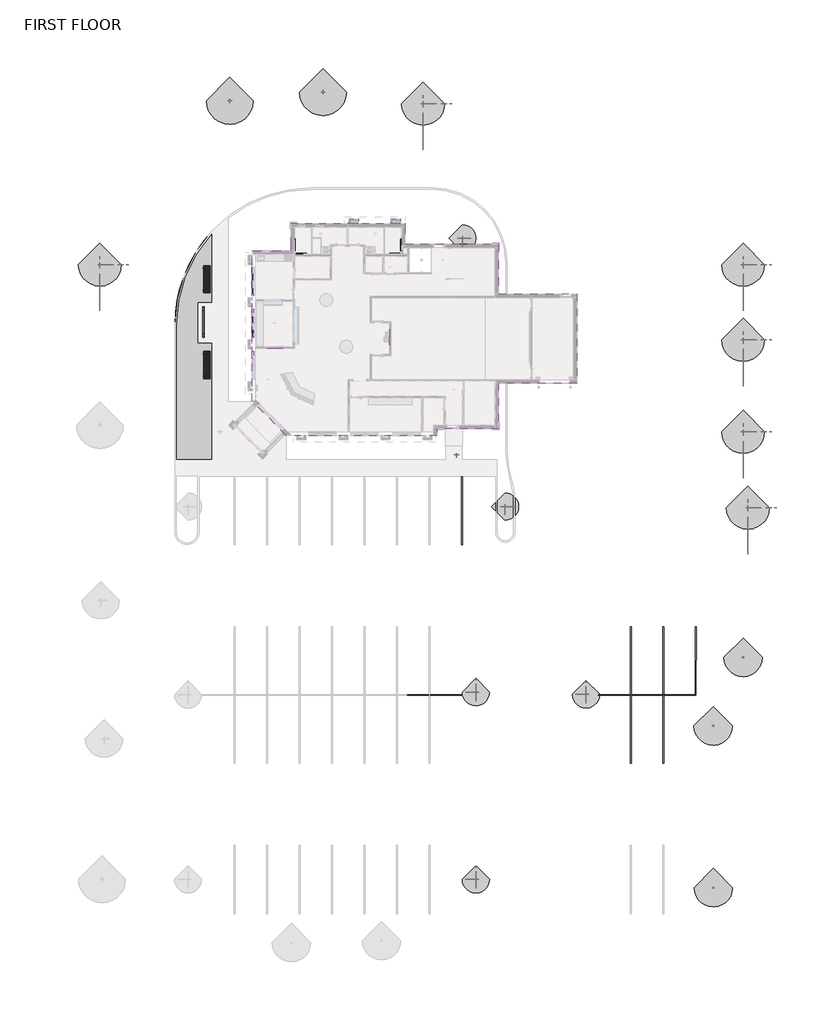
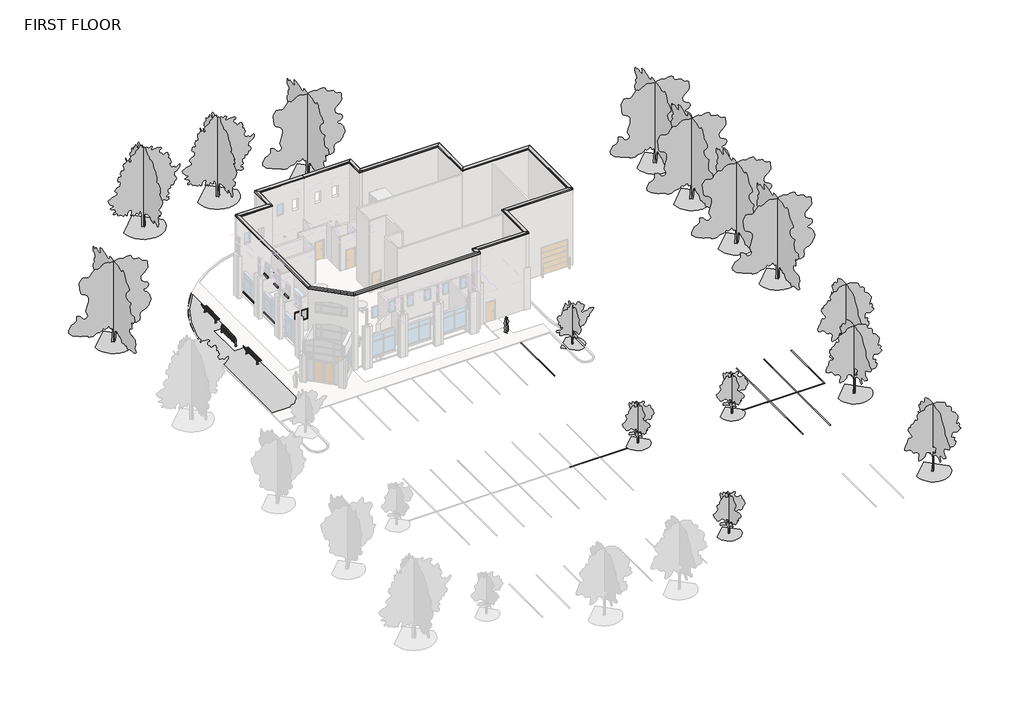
# One storey, part 7 of 7: 28 geographic elements, 14 proxies.
"""IFC4 building model written with IfcOpenShell, lengths in millimetres."""

from ifc_helpers import new_model, si_unit, origin, place, context, project, spatial, faceted_brep, triangles, transform, mapped, element, save
from components import generic_models_46b82326, grab_bar_ada_3_piece_grab_bar_ada_3_piece_215440b3, grab_bar_ada_3_piece_grab_bar_ada_3_piece_27ae340b, precast_column_cap7_precast_column_cap_b482682e, precast_column_cap8_precast_column_cap_329b37f6, rpc_female_936a91ee, proxy_52aa913c, proxy_4080196a, geographic_element_50e47716, geographic_element_83f40e2b, geographic_element_ca5cffeb, pavement_stripe_20_9c478066, pavement_stripe_20_eeeff9bc, rpc_tree_deciduous_japanese_cherry_15_e499737d, rpc_tree_deciduous_largetooth_aspen_25_f6cd7aa4, rpc_tree_deciduous_red_maple_30_cba750cc, rpc_tree_deciduous_schumard_oak_30_cf07c7db

model = new_model("IFC4")

# Units and contexts
model_context = context("Model", 3, world=origin())
ifc_project = project(units=[si_unit("LENGTHUNIT", "METRE", prefix="MILLI")], contexts=[model_context])

# Site, building, storey
site = spatial("IfcSite", under=ifc_project)
building = spatial("IfcBuilding", under=site)
storey = spatial("IfcBuildingStorey", under=building, Name="FIRST FLOOR", Elevation=30480.0)

# Proxies
placement = place(None, origin())
element("IfcBuildingElementProxy", 1, Name="Building Element Proxy", at=placement, inside=storey, context=model_context, shape_type="Tessellation", body=[
    triangles([(-20482.0358459, 11922.8001526, 30480.0), (-20482.0358459, -8391.3988449, 30480.0), (-23733.5652832, -8391.3988449, 30480.0), (-23733.1746094, 3634.1546288, 30480.0), (-23678.498877, 4787.2665115, 30480.0), (-23540.9630859, 5790.2802887, 30480.0), (-23354.2907593, 6649.721434, 30480.0), (-23120.651532, 7449.7377182, 30480.0), (-22515.4745178, 8945.1743454, 30480.0), (-21903.5141968, 10057.8244537, 30480.0), (-21459.0552795, 10724.7744415, 30480.0), (-21144.2930969, 11145.5580597, 30480.0), (-20751.3403381, 11622.4998779, 30480.0)], [[4, 6, 5], [4, 1, 7], [4, 7, 6], [8, 7, 1], [4, 3, 2], [10, 9, 1], [1, 4, 2], [9, 8, 1], [12, 11, 1], [1, 13, 12], [11, 10, 1]], closed=False),
])
generic_models_shape = generic_models_46b82326(model_context)
element("IfcBuildingElementProxy", 2, Name="Art_Piece_Van_Gogh_5866 : Art_Piece_Van_Gogh_5866", ObjectType="Art_Piece_Van_Gogh_5866 : Art_Piece_Van_Gogh_5866", at=placement, inside=storey, context=model_context, shape_type="MappedRepresentation", body=[
    mapped(generic_models_shape, transform((-14611.460253, 1582.8635405, 29683.3995774), x_axis=(-1.0, 0.0, 0.0), y_axis=(0.0, -1.0, 0.0), z_axis=(0.0, 0.0, 1.0))),
])
element("IfcBuildingElementProxy", 3, Name="Art_Piece_Van_Gogh_5866 : Art_Piece_Van_Gogh_5866", ObjectType="Art_Piece_Van_Gogh_5866 : Art_Piece_Van_Gogh_5866", at=placement, inside=storey, context=model_context, shape_type="MappedRepresentation", body=[
    mapped(generic_models_shape, transform((-4502.260253, 2298.8260405, 30480.0), x_axis=(0.0, 1.0, 0.0), y_axis=(-1.0, 0.0, 0.0), z_axis=(0.0, 0.0, 1.0))),
])
element("IfcBuildingElementProxy", 4, Name="Coping", ObjectType="Coping", at=placement, inside=storey, context=model_context, shape_type="Brep", body=[
    faceted_brep([(-358.885253, -5654.5489595, 38900.1), (-348.0261135, -5665.408099, 38870.2647593), (-350.5032676, -5662.9309449, 38867.7876052), (-362.060253, -5651.3739595, 38899.5401618), (-362.060253, -5651.3739595, 39051.3127216), (-666.860253, -5346.5739595, 39019.2285111), (-666.860253, -5346.5739595, 38899.5401618), (-677.9108685, -5335.523344, 38869.1788453), (-680.3880226, -5333.0461899, 38871.6559994), (-670.035253, -5343.3989595, 38900.1), (-670.035253, -5343.3989595, 39022.0868421), (-358.885253, -5654.5489595, 39054.8394737), (-358.885253, -6264.1489595, 38900.1), (-358.885253, -6264.1489595, 39054.8394737), (-670.035253, -5952.9989595, 39022.0868421), (-670.035253, -5952.9989595, 38900.1), (-680.3880226, -5942.6461899, 38871.6559994), (-677.9108685, -5945.123344, 38869.1788453), (-666.860253, -5956.1739595, 38899.5401618), (-666.860253, -5956.1739595, 39019.2285111), (-362.060253, -6260.9739595, 39051.3127216), (-362.060253, -6260.9739595, 38899.5401618), (-350.5032676, -6272.5309449, 38867.7876052), (-348.0261135, -6275.008099, 38870.2647593)], [[[0, 1, 2, 3, 4, 5, 6, 7, 8, 9, 10, 11]], [[12, 13, 14, 15, 16, 17, 18, 19, 20, 21, 22, 23]], [[1, 0, 12, 23]], [[2, 1, 23, 22]], [[3, 2, 22, 21]], [[4, 3, 21, 20]], [[5, 4, 20, 19]], [[6, 5, 19, 18]], [[7, 6, 18, 17]], [[8, 7, 17, 16]], [[9, 8, 16, 15]], [[10, 9, 15, 14]], [[11, 10, 14, 13]], [[0, 11, 13, 12]]]),
    faceted_brep([(5127.514747, -5654.5489595, 38900.1), (5138.3738865, -5665.408099, 38870.2647593), (5135.8967324, -5662.9309449, 38867.7876052), (5124.339747, -5651.3739595, 38899.5401618), (5124.339747, -5651.3739595, 39051.3127216), (4819.539747, -5346.5739595, 39019.2285111), (4819.539747, -5346.5739595, 38899.5401618), (4808.4891315, -5335.523344, 38869.1788453), (4806.0119774, -5333.0461899, 38871.6559994), (4816.364747, -5343.3989595, 38900.1), (4816.364747, -5343.3989595, 39022.0868421), (5127.514747, -5654.5489595, 39054.8394737), (-358.885253, -5654.5489595, 38900.1), (-358.885253, -5654.5489595, 39054.8394737), (-670.035253, -5343.3989595, 39022.0868421), (-670.035253, -5343.3989595, 38900.1), (-680.3880226, -5333.0461899, 38871.6559994), (-677.9108685, -5335.523344, 38869.1788453), (-666.860253, -5346.5739595, 38899.5401618), (-666.860253, -5346.5739595, 39019.2285111), (-362.060253, -5651.3739595, 39051.3127216), (-362.060253, -5651.3739595, 38899.5401618), (-350.5032676, -5662.9309449, 38867.7876052), (-348.0261135, -5665.408099, 38870.2647593)], [[[0, 1, 2, 3, 4, 5, 6, 7, 8, 9, 10, 11]], [[12, 13, 14, 15, 16, 17, 18, 19, 20, 21, 22, 23]], [[1, 0, 12, 23]], [[2, 1, 23, 22]], [[3, 2, 22, 21]], [[4, 3, 21, 20]], [[5, 4, 20, 19]], [[6, 5, 19, 18]], [[7, 6, 18, 17]], [[8, 7, 17, 16]], [[9, 8, 16, 15]], [[10, 9, 15, 14]], [[11, 10, 14, 13]], [[0, 11, 13, 12]]]),
    faceted_brep([(5127.514747, -1590.5489595, 38900.1), (5138.3738865, -1601.408099, 38870.2647593), (5135.8967324, -1598.9309449, 38867.7876052), (5124.339747, -1587.3739595, 38899.5401618), (5124.339747, -1587.3739595, 39051.3127216), (4819.539747, -1282.5739595, 39019.2285111), (4819.539747, -1282.5739595, 38899.5401618), (4808.4891315, -1271.523344, 38869.1788453), (4806.0119774, -1269.0461899, 38871.6559994), (4816.364747, -1279.3989595, 38900.1), (4816.364747, -1279.3989595, 39022.0868421), (5127.514747, -1590.5489595, 39054.8394737), (5127.514747, -5654.5489595, 38900.1), (5127.514747, -5654.5489595, 39054.8394737), (4816.364747, -5343.3989595, 39022.0868421), (4816.364747, -5343.3989595, 38900.1), (4806.0119774, -5333.0461899, 38871.6559994), (4808.4891315, -5335.523344, 38869.1788453), (4819.539747, -5346.5739595, 38899.5401618), (4819.539747, -5346.5739595, 39019.2285111), (5124.339747, -5651.3739595, 39051.3127216), (5124.339747, -5651.3739595, 38899.5401618), (5135.8967324, -5662.9309449, 38867.7876052), (5138.3738865, -5665.408099, 38870.2647593)], [[[0, 1, 2, 3, 4, 5, 6, 7, 8, 9, 10, 11]], [[12, 13, 14, 15, 16, 17, 18, 19, 20, 21, 22, 23]], [[1, 0, 12, 23]], [[2, 1, 23, 22]], [[3, 2, 22, 21]], [[4, 3, 21, 20]], [[5, 4, 20, 19]], [[6, 5, 19, 18]], [[7, 6, 18, 17]], [[8, 7, 17, 16]], [[9, 8, 16, 15]], [[10, 9, 15, 14]], [[11, 10, 14, 13]], [[0, 11, 13, 12]]]),
    faceted_brep([(12137.914747, -1590.5489595, 38900.1), (12148.7738865, -1601.408099, 38870.2647593), (12146.2967324, -1598.9309449, 38867.7876052), (12134.739747, -1587.3739595, 38899.5401618), (12134.739747, -1587.3739595, 39051.3127216), (11829.939747, -1282.5739595, 39019.2285111), (11829.939747, -1282.5739595, 38899.5401618), (11818.8891315, -1271.523344, 38869.1788453), (11816.4119774, -1269.0461899, 38871.6559994), (11826.764747, -1279.3989595, 38900.1), (11826.764747, -1279.3989595, 39022.0868421), (12137.914747, -1590.5489595, 39054.8394737), (5127.514747, -1590.5489595, 38900.1), (5127.514747, -1590.5489595, 39054.8394737), (4816.364747, -1279.3989595, 39022.0868421), (4816.364747, -1279.3989595, 38900.1), (4806.0119774, -1269.0461899, 38871.6559994), (4808.4891315, -1271.523344, 38869.1788453), (4819.539747, -1282.5739595, 38899.5401618), (4819.539747, -1282.5739595, 39019.2285111), (5124.339747, -1587.3739595, 39051.3127216), (5124.339747, -1587.3739595, 38899.5401618), (5135.8967324, -1598.9309449, 38867.7876052), (5138.3738865, -1601.408099, 38870.2647593)], [[[0, 1, 2, 3, 4, 5, 6, 7, 8, 9, 10, 11]], [[12, 13, 14, 15, 16, 17, 18, 19, 20, 21, 22, 23]], [[1, 0, 12, 23]], [[2, 1, 23, 22]], [[3, 2, 22, 21]], [[4, 3, 21, 20]], [[5, 4, 20, 19]], [[6, 5, 19, 18]], [[7, 6, 18, 17]], [[8, 7, 17, 16]], [[9, 8, 16, 15]], [[10, 9, 15, 14]], [[11, 10, 14, 13]], [[0, 11, 13, 12]]]),
    faceted_brep([(12137.914747, 6346.9510405, 38900.1), (12148.7738865, 6357.8101801, 38870.2647593), (12146.2967324, 6355.333026, 38867.7876052), (12134.739747, 6343.7760405, 38899.5401618), (12134.739747, 6343.7760405, 39051.3127216), (11829.939747, 6038.9760405, 39019.2285111), (11829.939747, 6038.9760405, 38899.5401618), (11818.8891315, 6027.9254251, 38869.1788453), (11816.4119774, 6025.448271, 38871.6559994), (11826.764747, 6035.8010405, 38900.1), (11826.764747, 6035.8010405, 39022.0868421), (12137.914747, 6346.9510405, 39054.8394737), (12137.914747, -1590.5489595, 38900.1), (12137.914747, -1590.5489595, 39054.8394737), (11826.764747, -1279.3989595, 39022.0868421), (11826.764747, -1279.3989595, 38900.1), (11816.4119774, -1269.0461899, 38871.6559994), (11818.8891315, -1271.523344, 38869.1788453), (11829.939747, -1282.5739595, 38899.5401618), (11829.939747, -1282.5739595, 39019.2285111), (12134.739747, -1587.3739595, 39051.3127216), (12134.739747, -1587.3739595, 38899.5401618), (12146.2967324, -1598.9309449, 38867.7876052), (12148.7738865, -1601.408099, 38870.2647593)], [[[0, 1, 2, 3, 4, 5, 6, 7, 8, 9, 10, 11]], [[12, 13, 14, 15, 16, 17, 18, 19, 20, 21, 22, 23]], [[1, 0, 12, 23]], [[2, 1, 23, 22]], [[3, 2, 22, 21]], [[4, 3, 21, 20]], [[5, 4, 20, 19]], [[6, 5, 19, 18]], [[7, 6, 18, 17]], [[8, 7, 17, 16]], [[9, 8, 16, 15]], [[10, 9, 15, 14]], [[11, 10, 14, 13]], [[0, 11, 13, 12]]]),
    faceted_brep([(-13779.0655091, -6264.1489595, 38900.1), (-13783.563512, -6275.008099, 38870.2647593), (-13782.5374412, -6272.5309449, 38867.7876052), (-13777.7503811, -6260.9739595, 38899.5401618), (-13777.7503811, -6260.9739595, 39051.3127216), (-13651.4980873, -5956.1739595, 39019.2285111), (-13651.4980873, -5956.1739595, 38899.5401618), (-13646.9207725, -5945.123344, 38869.1788453), (-13645.8947017, -5942.6461899, 38871.6559994), (-13650.1829592, -5952.9989595, 38900.1), (-13650.1829592, -5952.9989595, 39022.0868421), (-13779.0655091, -6264.1489595, 39054.8394737), (-16830.785253, -3212.4292156, 38900.1), (-16830.785253, -3212.4292156, 39054.8394737), (-16519.635253, -3083.5466657, 39022.0868421), (-16519.635253, -3083.5466657, 38900.1), (-16509.2824835, -3079.2584081, 38871.6559994), (-16511.7596375, -3080.2844789, 38869.1788453), (-16522.810253, -3084.8617937, 38899.5401618), (-16522.810253, -3084.8617937, 39019.2285111), (-16827.610253, -3211.1140875, 39051.3127216), (-16827.610253, -3211.1140875, 38899.5401618), (-16839.1672385, -3215.9011477, 38867.7876052), (-16841.6443926, -3216.9272185, 38870.2647593)], [[[0, 1, 2, 3, 4, 5, 6, 7, 8, 9, 10, 11]], [[12, 13, 14, 15, 16, 17, 18, 19, 20, 21, 22, 23]], [[1, 0, 12, 23]], [[2, 1, 23, 22]], [[3, 2, 22, 21]], [[4, 3, 21, 20]], [[5, 4, 20, 19]], [[6, 5, 19, 18]], [[7, 6, 18, 17]], [[8, 7, 17, 16]], [[9, 8, 16, 15]], [[10, 9, 15, 14]], [[11, 10, 14, 13]], [[0, 11, 13, 12]]]),
    faceted_brep([(-16830.785253, -3212.4292156, 38900.1), (-16841.6443926, -3216.9272185, 38870.2647593), (-16839.1672385, -3215.9011477, 38867.7876052), (-16827.610253, -3211.1140875, 38899.5401618), (-16827.610253, -3211.1140875, 39051.3127216), (-16522.810253, -3084.8617937, 39019.2285111), (-16522.810253, -3084.8617937, 38899.5401618), (-16511.7596375, -3080.2844789, 38869.1788453), (-16509.2824835, -3079.2584081, 38871.6559994), (-16519.635253, -3083.5466657, 38900.1), (-16519.635253, -3083.5466657, 39022.0868421), (-16830.785253, -3212.4292156, 39054.8394737), (-16830.785253, 10207.7510405, 38900.1), (-16830.785253, 10207.7510405, 39054.8394737), (-16519.635253, 9896.6010405, 39022.0868421), (-16519.635253, 9896.6010405, 38900.1), (-16509.2824835, 9886.248271, 38871.6559994), (-16511.7596375, 9888.7254251, 38869.1788453), (-16522.810253, 9899.7760405, 38899.5401618), (-16522.810253, 9899.7760405, 39019.2285111), (-16827.610253, 10204.5760405, 39051.3127216), (-16827.610253, 10204.5760405, 38899.5401618), (-16839.1672385, 10216.133026, 38867.7876052), (-16841.6443926, 10218.6101801, 38870.2647593)], [[[0, 1, 2, 3, 4, 5, 6, 7, 8, 9, 10, 11]], [[12, 13, 14, 15, 16, 17, 18, 19, 20, 21, 22, 23]], [[1, 0, 12, 23]], [[2, 1, 23, 22]], [[3, 2, 22, 21]], [[4, 3, 21, 20]], [[5, 4, 20, 19]], [[6, 5, 19, 18]], [[7, 6, 18, 17]], [[8, 7, 17, 16]], [[9, 8, 16, 15]], [[10, 9, 15, 14]], [[11, 10, 14, 13]], [[0, 11, 13, 12]]]),
    faceted_brep([(-16830.785253, 10207.7510405, 38900.1), (-16841.6443926, 10218.6101801, 38870.2647593), (-16839.1672385, 10216.133026, 38867.7876052), (-16827.610253, 10204.5760405, 38899.5401618), (-16827.610253, 10204.5760405, 39051.3127216), (-16522.810253, 9899.7760405, 39019.2285111), (-16522.810253, 9899.7760405, 38899.5401618), (-16511.7596375, 9888.7254251, 38869.1788453), (-16509.2824835, 9886.248271, 38871.6559994), (-16519.635253, 9896.6010405, 38900.1), (-16519.635253, 9896.6010405, 39022.0868421), (-16830.785253, 10207.7510405, 39054.8394737), (-13376.385253, 10207.7510405, 38900.1), (-13376.385253, 10207.7510405, 39054.8394737), (-13065.235253, 9896.6010405, 39022.0868421), (-13065.235253, 9896.6010405, 38900.1), (-13054.8824835, 9886.248271, 38871.6559994), (-13057.3596375, 9888.7254251, 38869.1788453), (-13068.410253, 9899.7760405, 38899.5401618), (-13068.410253, 9899.7760405, 39019.2285111), (-13373.210253, 10204.5760405, 39051.3127216), (-13373.210253, 10204.5760405, 38899.5401618), (-13384.7672385, 10216.133026, 38867.7876052), (-13387.2443926, 10218.6101801, 38870.2647593)], [[[0, 1, 2, 3, 4, 5, 6, 7, 8, 9, 10, 11]], [[12, 13, 14, 15, 16, 17, 18, 19, 20, 21, 22, 23]], [[1, 0, 12, 23]], [[2, 1, 23, 22]], [[3, 2, 22, 21]], [[4, 3, 21, 20]], [[5, 4, 20, 19]], [[6, 5, 19, 18]], [[7, 6, 18, 17]], [[8, 7, 17, 16]], [[9, 8, 16, 15]], [[10, 9, 15, 14]], [[11, 10, 14, 13]], [[0, 11, 13, 12]]]),
    faceted_brep([(-13376.385253, 10207.7510405, 38900.1), (-13387.2443926, 10218.6101801, 38870.2647593), (-13384.7672385, 10216.133026, 38867.7876052), (-13373.210253, 10204.5760405, 38899.5401618), (-13373.210253, 10204.5760405, 39051.3127216), (-13068.410253, 9899.7760405, 39019.2285111), (-13068.410253, 9899.7760405, 38899.5401618), (-13057.3596375, 9888.7254251, 38869.1788453), (-13054.8824835, 9886.248271, 38871.6559994), (-13065.235253, 9896.6010405, 38900.1), (-13065.235253, 9896.6010405, 39022.0868421), (-13376.385253, 10207.7510405, 39054.8394737), (-13376.385253, 12646.1510405, 38900.1), (-13376.385253, 12646.1510405, 39054.8394737), (-13065.235253, 12335.0010405, 39022.0868421), (-13065.235253, 12335.0010405, 38900.1), (-13054.8824835, 12324.648271, 38871.6559994), (-13057.3596375, 12327.1254251, 38869.1788453), (-13068.410253, 12338.1760405, 38899.5401618), (-13068.410253, 12338.1760405, 39019.2285111), (-13373.210253, 12642.9760405, 39051.3127216), (-13373.210253, 12642.9760405, 38899.5401618), (-13384.7672385, 12654.533026, 38867.7876052), (-13387.2443926, 12657.0101801, 38870.2647593)], [[[0, 1, 2, 3, 4, 5, 6, 7, 8, 9, 10, 11]], [[12, 13, 14, 15, 16, 17, 18, 19, 20, 21, 22, 23]], [[1, 0, 12, 23]], [[2, 1, 23, 22]], [[3, 2, 22, 21]], [[4, 3, 21, 20]], [[5, 4, 20, 19]], [[6, 5, 19, 18]], [[7, 6, 18, 17]], [[8, 7, 17, 16]], [[9, 8, 16, 15]], [[10, 9, 15, 14]], [[11, 10, 14, 13]], [[0, 11, 13, 12]]]),
    faceted_brep([(-13376.385253, 12646.1510405, 38900.1), (-13387.2443926, 12657.0101801, 38870.2647593), (-13384.7672385, 12654.533026, 38867.7876052), (-13373.210253, 12642.9760405, 38899.5401618), (-13373.210253, 12642.9760405, 39051.3127216), (-13068.410253, 12338.1760405, 39019.2285111), (-13068.410253, 12338.1760405, 38899.5401618), (-13057.3596375, 12327.1254251, 38869.1788453), (-13054.8824835, 12324.648271, 38871.6559994), (-13065.235253, 12335.0010405, 38900.1), (-13065.235253, 12335.0010405, 39022.0868421), (-13376.385253, 12646.1510405, 39054.8394737), (-8332.897753, 12646.1510405, 38900.1), (-8332.897753, 12646.1510405, 39054.8394737), (-8332.897753, 12335.0010405, 39022.0868421), (-8332.897753, 12335.0010405, 38900.1), (-8332.897753, 12324.648271, 38871.6559994), (-8332.897753, 12327.1254251, 38869.1788453), (-8332.897753, 12338.1760405, 38899.5401618), (-8332.897753, 12338.1760405, 39019.2285111), (-8332.897753, 12642.9760405, 39051.3127216), (-8332.897753, 12642.9760405, 38899.5401618), (-8332.897753, 12654.533026, 38867.7876052), (-8332.897753, 12657.0101801, 38870.2647593)], [[[0, 1, 2, 3, 4, 5, 6, 7, 8, 9, 10, 11]], [[12, 13, 14, 15, 16, 17, 18, 19, 20, 21, 22, 23]], [[1, 0, 12, 23]], [[2, 1, 23, 22]], [[3, 2, 22, 21]], [[4, 3, 21, 20]], [[5, 4, 20, 19]], [[6, 5, 19, 18]], [[7, 6, 18, 17]], [[8, 7, 17, 16]], [[9, 8, 16, 15]], [[10, 9, 15, 14]], [[11, 10, 14, 13]], [[0, 11, 13, 12]]]),
    faceted_brep([(-8332.897753, 12646.1510405, 38900.1), (-8332.897753, 12657.0101801, 38870.2647593), (-8332.897753, 12654.533026, 38867.7876052), (-8332.897753, 12642.9760405, 38899.5401618), (-8332.897753, 12642.9760405, 39051.3127216), (-8332.897753, 12338.1760405, 39019.2285111), (-8332.897753, 12338.1760405, 38899.5401618), (-8332.897753, 12327.1254251, 38869.1788453), (-8332.897753, 12324.648271, 38871.6559994), (-8332.897753, 12335.0010405, 38900.1), (-8332.897753, 12335.0010405, 39022.0868421), (-8332.897753, 12646.1510405, 39054.8394737), (-3203.685253, 12646.1510405, 38900.1), (-3203.685253, 12646.1510405, 39054.8394737), (-3514.835253, 12335.0010405, 39022.0868421), (-3514.835253, 12335.0010405, 38900.1), (-3525.1880226, 12324.648271, 38871.6559994), (-3522.7108685, 12327.1254251, 38869.1788453), (-3511.660253, 12338.1760405, 38899.5401618), (-3511.660253, 12338.1760405, 39019.2285111), (-3206.860253, 12642.9760405, 39051.3127216), (-3206.860253, 12642.9760405, 38899.5401618), (-3195.3032676, 12654.533026, 38867.7876052), (-3192.8261135, 12657.0101801, 38870.2647593)], [[[0, 1, 2, 3, 4, 5, 6, 7, 8, 9, 10, 11]], [[12, 13, 14, 15, 16, 17, 18, 19, 20, 21, 22, 23]], [[1, 0, 12, 23]], [[2, 1, 23, 22]], [[3, 2, 22, 21]], [[4, 3, 21, 20]], [[5, 4, 20, 19]], [[6, 5, 19, 18]], [[7, 6, 18, 17]], [[8, 7, 17, 16]], [[9, 8, 16, 15]], [[10, 9, 15, 14]], [[11, 10, 14, 13]], [[0, 11, 13, 12]]]),
    faceted_brep([(-3203.685253, 10817.3510405, 38900.1), (-3203.685253, 10817.3510405, 39054.8394737), (-3514.835253, 10506.2010405, 39022.0868421), (-3514.835253, 10506.2010405, 38900.1), (-3525.1880226, 10495.848271, 38871.6559994), (-3522.7108685, 10498.3254251, 38869.1788453), (-3511.660253, 10509.3760405, 38899.5401618), (-3511.660253, 10509.3760405, 39019.2285111), (-3206.860253, 10814.1760405, 39051.3127216), (-3206.860253, 10814.1760405, 38899.5401618), (-3195.3032676, 10825.733026, 38867.7876052), (-3192.8261135, 10828.2101801, 38870.2647593), (-3203.685253, 12646.1510405, 38900.1), (-3192.8261135, 12657.0101801, 38870.2647593), (-3195.3032676, 12654.533026, 38867.7876052), (-3206.860253, 12642.9760405, 38899.5401618), (-3206.860253, 12642.9760405, 39051.3127216), (-3511.660253, 12338.1760405, 39019.2285111), (-3511.660253, 12338.1760405, 38899.5401618), (-3522.7108685, 12327.1254251, 38869.1788453), (-3525.1880226, 12324.648271, 38871.6559994), (-3514.835253, 12335.0010405, 38900.1), (-3514.835253, 12335.0010405, 39022.0868421), (-3203.685253, 12646.1510405, 39054.8394737)], [[[0, 1, 2, 3, 4, 5, 6, 7, 8, 9, 10, 11]], [[12, 13, 14, 15, 16, 17, 18, 19, 20, 21, 22, 23]], [[1, 0, 12, 23]], [[2, 1, 23, 22]], [[3, 2, 22, 21]], [[4, 3, 21, 20]], [[5, 4, 20, 19]], [[6, 5, 19, 18]], [[7, 6, 18, 17]], [[8, 7, 17, 16]], [[9, 8, 16, 15]], [[10, 9, 15, 14]], [[11, 10, 14, 13]], [[0, 11, 13, 12]]]),
    faceted_brep([(-3203.685253, 10817.3510405, 38900.1), (-3192.8261135, 10828.2101801, 38870.2647593), (-3195.3032676, 10825.733026, 38867.7876052), (-3206.860253, 10814.1760405, 38899.5401618), (-3206.860253, 10814.1760405, 39051.3127216), (-3511.660253, 10509.3760405, 39019.2285111), (-3511.660253, 10509.3760405, 38899.5401618), (-3522.7108685, 10498.3254251, 38869.1788453), (-3525.1880226, 10495.848271, 38871.6559994), (-3514.835253, 10506.2010405, 38900.1), (-3514.835253, 10506.2010405, 39022.0868421), (-3203.685253, 10817.3510405, 39054.8394737), (5127.514747, 10817.3510405, 38900.1), (5127.514747, 10817.3510405, 39054.8394737), (4816.364747, 10506.2010405, 39022.0868421), (4816.364747, 10506.2010405, 38900.1), (4806.0119774, 10495.848271, 38871.6559994), (4808.4891315, 10498.3254251, 38869.1788453), (4819.539747, 10509.3760405, 38899.5401618), (4819.539747, 10509.3760405, 39019.2285111), (5124.339747, 10814.1760405, 39051.3127216), (5124.339747, 10814.1760405, 38899.5401618), (5135.8967324, 10825.733026, 38867.7876052), (5138.3738865, 10828.2101801, 38870.2647593)], [[[0, 1, 2, 3, 4, 5, 6, 7, 8, 9, 10, 11]], [[12, 13, 14, 15, 16, 17, 18, 19, 20, 21, 22, 23]], [[1, 0, 12, 23]], [[2, 1, 23, 22]], [[3, 2, 22, 21]], [[4, 3, 21, 20]], [[5, 4, 20, 19]], [[6, 5, 19, 18]], [[7, 6, 18, 17]], [[8, 7, 17, 16]], [[9, 8, 16, 15]], [[10, 9, 15, 14]], [[11, 10, 14, 13]], [[0, 11, 13, 12]]]),
    faceted_brep([(5127.514747, 10817.3510405, 38900.1), (5138.3738865, 10828.2101801, 38870.2647593), (5135.8967324, 10825.733026, 38867.7876052), (5124.339747, 10814.1760405, 38899.5401618), (5124.339747, 10814.1760405, 39051.3127216), (4819.539747, 10509.3760405, 39019.2285111), (4819.539747, 10509.3760405, 38899.5401618), (4808.4891315, 10498.3254251, 38869.1788453), (4806.0119774, 10495.848271, 38871.6559994), (4816.364747, 10506.2010405, 38900.1), (4816.364747, 10506.2010405, 39022.0868421), (5127.514747, 10817.3510405, 39054.8394737), (5127.514747, 6346.9510405, 38900.1), (5127.514747, 6346.9510405, 39054.8394737), (4816.364747, 6035.8010405, 39022.0868421), (4816.364747, 6035.8010405, 38900.1), (4806.0119774, 6025.448271, 38871.6559994), (4808.4891315, 6027.9254251, 38869.1788453), (4819.539747, 6038.9760405, 38899.5401618), (4819.539747, 6038.9760405, 39019.2285111), (5124.339747, 6343.7760405, 39051.3127216), (5124.339747, 6343.7760405, 38899.5401618), (5135.8967324, 6355.333026, 38867.7876052), (5138.3738865, 6357.8101801, 38870.2647593)], [[[0, 1, 2, 3, 4, 5, 6, 7, 8, 9, 10, 11]], [[12, 13, 14, 15, 16, 17, 18, 19, 20, 21, 22, 23]], [[1, 0, 12, 23]], [[2, 1, 23, 22]], [[3, 2, 22, 21]], [[4, 3, 21, 20]], [[5, 4, 20, 19]], [[6, 5, 19, 18]], [[7, 6, 18, 17]], [[8, 7, 17, 16]], [[9, 8, 16, 15]], [[10, 9, 15, 14]], [[11, 10, 14, 13]], [[0, 11, 13, 12]]]),
    faceted_brep([(5127.514747, 6346.9510405, 38900.1), (5138.3738865, 6357.8101801, 38870.2647593), (5135.8967324, 6355.333026, 38867.7876052), (5124.339747, 6343.7760405, 38899.5401618), (5124.339747, 6343.7760405, 39051.3127216), (4819.539747, 6038.9760405, 39019.2285111), (4819.539747, 6038.9760405, 38899.5401618), (4808.4891315, 6027.9254251, 38869.1788453), (4806.0119774, 6025.448271, 38871.6559994), (4816.364747, 6035.8010405, 38900.1), (4816.364747, 6035.8010405, 39022.0868421), (5127.514747, 6346.9510405, 39054.8394737), (12137.914747, 6346.9510405, 38900.1), (12137.914747, 6346.9510405, 39054.8394737), (11826.764747, 6035.8010405, 39022.0868421), (11826.764747, 6035.8010405, 38900.1), (11816.4119774, 6025.448271, 38871.6559994), (11818.8891315, 6027.9254251, 38869.1788453), (11829.939747, 6038.9760405, 38899.5401618), (11829.939747, 6038.9760405, 39019.2285111), (12134.739747, 6343.7760405, 39051.3127216), (12134.739747, 6343.7760405, 38899.5401618), (12146.2967324, 6355.333026, 38867.7876052), (12148.7738865, 6357.8101801, 38870.2647593)], [[[0, 1, 2, 3, 4, 5, 6, 7, 8, 9, 10, 11]], [[12, 13, 14, 15, 16, 17, 18, 19, 20, 21, 22, 23]], [[1, 0, 12, 23]], [[2, 1, 23, 22]], [[3, 2, 22, 21]], [[4, 3, 21, 20]], [[5, 4, 20, 19]], [[6, 5, 19, 18]], [[7, 6, 18, 17]], [[8, 7, 17, 16]], [[9, 8, 16, 15]], [[10, 9, 15, 14]], [[11, 10, 14, 13]], [[0, 11, 13, 12]]]),
    faceted_brep([(-13779.0655091, -6264.1489595, 38900.1), (-13779.0655091, -6264.1489595, 39054.8394737), (-13650.1829592, -5952.9989595, 39022.0868421), (-13650.1829592, -5952.9989595, 38900.1), (-13645.8947017, -5942.6461899, 38871.6559994), (-13646.9207725, -5945.123344, 38869.1788453), (-13651.4980873, -5956.1739595, 38899.5401618), (-13651.4980873, -5956.1739595, 39019.2285111), (-13777.7503811, -6260.9739595, 39051.3127216), (-13777.7503811, -6260.9739595, 38899.5401618), (-13782.5374412, -6272.5309449, 38867.7876052), (-13783.563512, -6275.008099, 38870.2647593), (-358.885253, -6264.1489595, 38900.1), (-348.0261135, -6275.008099, 38870.2647593), (-350.5032676, -6272.5309449, 38867.7876052), (-362.060253, -6260.9739595, 38899.5401618), (-362.060253, -6260.9739595, 39051.3127216), (-666.860253, -5956.1739595, 39019.2285111), (-666.860253, -5956.1739595, 38899.5401618), (-677.9108685, -5945.123344, 38869.1788453), (-680.3880226, -5942.6461899, 38871.6559994), (-670.035253, -5952.9989595, 38900.1), (-670.035253, -5952.9989595, 39022.0868421), (-358.885253, -6264.1489595, 39054.8394737)], [[[0, 1, 2, 3, 4, 5, 6, 7, 8, 9, 10, 11]], [[12, 13, 14, 15, 16, 17, 18, 19, 20, 21, 22, 23]], [[1, 0, 12, 23]], [[2, 1, 23, 22]], [[3, 2, 22, 21]], [[4, 3, 21, 20]], [[5, 4, 20, 19]], [[6, 5, 19, 18]], [[7, 6, 18, 17]], [[8, 7, 17, 16]], [[9, 8, 16, 15]], [[10, 9, 15, 14]], [[11, 10, 14, 13]], [[0, 11, 13, 12]]]),
])
grab_bar_ada_3_piece_grab_bar_ada_3_piece_shape = grab_bar_ada_3_piece_grab_bar_ada_3_piece_215440b3(model_context)
element("IfcBuildingElementProxy", 5, Name="Grab Bar ADA - 3 Piece : Grab Bar ADA - 3 Piece", ObjectType="Grab Bar ADA - 3 Piece : Grab Bar ADA - 3 Piece", at=placement, inside=storey, context=model_context, shape_type="MappedRepresentation", body=[
    mapped(grab_bar_ada_3_piece_grab_bar_ada_3_piece_shape, transform((-13065.235253, 9820.4010405, 30480.0), x_axis=(1.0, 0.0, 0.0), y_axis=(0.0, 1.0, 0.0), z_axis=(0.0, 0.0, 1.0))),
])
grab_bar_ada_3_piece_grab_bar_ada_3_piece_2_shape = grab_bar_ada_3_piece_grab_bar_ada_3_piece_27ae340b(model_context)
element("IfcBuildingElementProxy", 6, Name="Grab Bar ADA - 3 Piece : Grab Bar ADA - 3 Piece", ObjectType="Grab Bar ADA - 3 Piece : Grab Bar ADA - 3 Piece", at=placement, inside=storey, context=model_context, shape_type="MappedRepresentation", body=[
    mapped(grab_bar_ada_3_piece_grab_bar_ada_3_piece_2_shape, transform((-3511.5770356, 9820.4010405, 30480.0), x_axis=(-1.0, 0.0, 0.0), y_axis=(0.0, -1.0, 0.0), z_axis=(0.0, 0.0, 1.0))),
])
precast_column_cap7_precast_column_cap_shape = precast_column_cap7_precast_column_cap_b482682e(model_context)
element("IfcBuildingElementProxy", 7, Name="Precast Column Cap7 : Precast Column Cap", ObjectType="Precast Column Cap7 : Precast Column Cap", at=placement, inside=storey, context=model_context, shape_type="MappedRepresentation", body=[
    mapped(precast_column_cap7_precast_column_cap_shape, transform((0.0, 0.0, 0.0), x_axis=(1.0, 0.0, 0.0), y_axis=(0.0, 1.0, 0.0), z_axis=(0.0, 0.0, 1.0))),
])
precast_column_cap8_precast_column_cap_shape = precast_column_cap8_precast_column_cap_329b37f6(model_context)
element("IfcBuildingElementProxy", 8, Name="Precast Column Cap8 : Precast Column Cap", ObjectType="Precast Column Cap8 : Precast Column Cap", at=placement, inside=storey, context=model_context, shape_type="MappedRepresentation", body=[
    mapped(precast_column_cap8_precast_column_cap_shape, transform((-25526.4064361, 11665.2020811, 0.0), x_axis=(-1.0, 0.0, 0.0), y_axis=(0.0, -1.0, 0.0), z_axis=(0.0, 0.0, 1.0))),
])
rpc_female_shape = rpc_female_936a91ee(model_context)
element("IfcBuildingElementProxy", 9, Name="RPC Female : Tina", ObjectType="RPC Female : Tina", at=placement, inside=storey, context=model_context, shape_type="MappedRepresentation", body=[
    mapped(rpc_female_shape, transform((1375.2585299, -8035.7989595, 30480.0), x_axis=(1.0, 0.0, 0.0), y_axis=(0.0, 1.0, 0.0), z_axis=(0.0, 0.0, 1.0))),
])
proxy_shape = proxy_52aa913c(model_context)
element("IfcBuildingElementProxy", 10, Name="Stone Sill : 2' x 8\" x 3 5/8\" Deep", ObjectType="Stone Sill : 2' x 8\" x 3 5/8\" Deep", at=placement, inside=storey, context=model_context, shape_type="MappedRepresentation", body=[
    mapped(proxy_shape, transform((-16673.80834, 4049.9858005, 33419.5320312), x_axis=(0.0, 1.0, 0.0), y_axis=(-1.0, 0.0, 0.0), z_axis=(0.0, 0.0, 1.0))),
])
element("IfcBuildingElementProxy", 11, Name="Stone Sill : 2' x 8\" x 3 5/8\" Deep", ObjectType="Stone Sill : 2' x 8\" x 3 5/8\" Deep", at=placement, inside=storey, context=model_context, shape_type="MappedRepresentation", body=[
    mapped(proxy_shape, transform((-16673.80834, 2221.1858005, 33419.5320312), x_axis=(0.0, 1.0, 0.0), y_axis=(-1.0, 0.0, 0.0), z_axis=(0.0, 0.0, 1.0))),
])
element("IfcBuildingElementProxy", 12, Name="Stone Sill : 2' x 8\" x 3 5/8\" Deep", ObjectType="Stone Sill : 2' x 8\" x 3 5/8\" Deep", at=placement, inside=storey, context=model_context, shape_type="MappedRepresentation", body=[
    mapped(proxy_shape, transform((-16673.80834, 290.7959605, 33419.5320312), x_axis=(0.0, 1.0, 0.0), y_axis=(-1.0, 0.0, 0.0), z_axis=(0.0, 0.0, 1.0))),
])
proxy_2_shape = proxy_4080196a(model_context)
element("IfcBuildingElementProxy", 13, Name="Stone Sill : 4' x 8\" x 3 5/8\" Deep", ObjectType="Stone Sill : 4' x 8\" x 3 5/8\" Deep", at=placement, inside=storey, context=model_context, shape_type="MappedRepresentation", body=[
    mapped(proxy_2_shape, transform((-16673.80834, 3135.5908805, 29101.5320313), x_axis=(0.0, 1.0, 0.0), y_axis=(-1.0, 0.0, 0.0), z_axis=(0.0, 0.0, 1.0))),
])
element("IfcBuildingElementProxy", 14, Name="Stone Sill : 4' x 8\" x 3 5/8\" Deep", ObjectType="Stone Sill : 4' x 8\" x 3 5/8\" Deep", at=placement, inside=storey, context=model_context, shape_type="MappedRepresentation", body=[
    mapped(proxy_2_shape, transform((-16673.80834, 6894.7807205, 29101.5320313), x_axis=(0.0, 1.0, 0.0), y_axis=(-1.0, 0.0, 0.0), z_axis=(0.0, 0.0, 1.0))),
])

# Geographic elements
geographic_element_shape = geographic_element_50e47716(model_context)
element("IfcGeographicElement", 15, ObjectType="Bike Stand : 102\"", at=placement, inside=storey, context=model_context, shape_type="MappedRepresentation", body=[
    mapped(geographic_element_shape, transform((-21193.235253, 3367.9902117, 30480.0), x_axis=(0.0, 1.0, 0.0), y_axis=(-1.0, 0.0, 0.0), z_axis=(0.0, 0.0, 1.0))),
])
geographic_element_2_shape = geographic_element_83f40e2b(model_context)
element("IfcGeographicElement", 16, ObjectType="Park Bench : 96\"", at=placement, inside=storey, context=model_context, shape_type="MappedRepresentation", body=[
    mapped(geographic_element_2_shape, transform((-20932.885253, 22.3459605, 30480.0), x_axis=(0.0, 1.0, 0.0), y_axis=(-1.0, 0.0, 0.0), z_axis=(0.0, 0.0, 1.0))),
])
geographic_element_3_shape = geographic_element_ca5cffeb(model_context)
element("IfcGeographicElement", 17, ObjectType="Park Bench : 96\"", at=placement, inside=storey, context=model_context, shape_type="MappedRepresentation", body=[
    mapped(geographic_element_3_shape, transform((-20932.885253, 7680.4154805, 30480.0), x_axis=(0.0, -1.0, 0.0), y_axis=(1.0, 0.0, 0.0), z_axis=(0.0, 0.0, 1.0))),
])
pavement_stripe_20_shape = pavement_stripe_20_9c478066(model_context)
element("IfcGeographicElement", 18, ObjectType="Pavement Stripe : 20'", at=placement, inside=storey, context=model_context, shape_type="MappedRepresentation", body=[
    mapped(pavement_stripe_20_shape, transform((604.7730429, -10778.9989595, 30327.6), x_axis=(1.0, 0.0, 0.0), y_axis=(0.0, 1.0, 0.0), z_axis=(0.0, 0.0, 1.0))),
])
element("IfcGeographicElement", 19, ObjectType="Pavement Stripe : 20'", at=placement, inside=storey, context=model_context, shape_type="MappedRepresentation", body=[
    mapped(pavement_stripe_20_shape, transform((15692.3777862, -30286.1989595, 30327.6), x_axis=(1.0, 0.0, 0.0), y_axis=(0.0, 1.0, 0.0), z_axis=(0.0, 0.0, 1.0))),
])
element("IfcGeographicElement", 20, ObjectType="Pavement Stripe : 20'", at=placement, inside=storey, context=model_context, shape_type="MappedRepresentation", body=[
    mapped(pavement_stripe_20_shape, transform((18587.9730469, -30286.1989595, 30327.6), x_axis=(1.0, 0.0, 0.0), y_axis=(0.0, 1.0, 0.0), z_axis=(0.0, 0.0, 1.0))),
])
pavement_stripe_20_2_shape = pavement_stripe_20_eeeff9bc(model_context)
element("IfcGeographicElement", 21, ObjectType="Pavement Stripe : 20'", at=placement, inside=storey, context=model_context, shape_type="MappedRepresentation", body=[
    mapped(pavement_stripe_20_2_shape, transform((1010.0784404, -30687.3718083, 30327.6), x_axis=(2.099212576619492e-05, 0.9999999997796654, 0.0), y_axis=(-0.9999999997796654, 2.099212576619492e-05, 0.0), z_axis=(0.0, 0.0, 1.0))),
])
element("IfcGeographicElement", 22, ObjectType="Pavement Stripe : 20'", at=placement, inside=storey, context=model_context, shape_type="MappedRepresentation", body=[
    mapped(pavement_stripe_20_2_shape, transform((15692.4140549, -28558.4691789, 30327.6), x_axis=(0.9999999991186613, -4.198425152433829e-05, 0.0), y_axis=(4.198425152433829e-05, 0.9999999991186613, 0.0), z_axis=(0.0, 0.0, 1.0))),
])
element("IfcGeographicElement", 23, ObjectType="Pavement Stripe : 20'", at=placement, inside=storey, context=model_context, shape_type="MappedRepresentation", body=[
    mapped(pavement_stripe_20_2_shape, transform((18588.009313, -28558.5907483, 30327.6), x_axis=(0.9999999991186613, -4.198425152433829e-05, 0.0), y_axis=(4.198425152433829e-05, 0.9999999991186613, 0.0), z_axis=(0.0, 0.0, 1.0))),
])
element("IfcGeographicElement", 24, ObjectType="Pavement Stripe : 20'", at=placement, inside=storey, context=model_context, shape_type="MappedRepresentation", body=[
    mapped(pavement_stripe_20_2_shape, transform((21483.6093111, -28558.7123179, 30327.6), x_axis=(0.9999999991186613, -4.198425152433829e-05, 0.0), y_axis=(4.198425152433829e-05, 0.9999999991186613, 0.0), z_axis=(0.0, 0.0, 1.0))),
])
element("IfcGeographicElement", 25, ObjectType="Pavement Stripe : 20'", at=placement, inside=storey, context=model_context, shape_type="MappedRepresentation", body=[
    mapped(pavement_stripe_20_2_shape, transform((19298.0784482, -30687.3718083, 30327.6), x_axis=(2.099212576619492e-05, 0.9999999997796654, 0.0), y_axis=(-0.9999999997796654, 2.099212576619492e-05, 0.0), z_axis=(0.0, 0.0, 1.0))),
])
element("IfcGeographicElement", 26, ObjectType="Pavement Stripe : 20'", at=placement, inside=storey, context=model_context, shape_type="MappedRepresentation", body=[
    mapped(pavement_stripe_20_2_shape, transform((21888.8784482, -30687.3718083, 30327.6), x_axis=(2.099212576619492e-05, 0.9999999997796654, 0.0), y_axis=(-0.9999999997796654, 2.099212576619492e-05, 0.0), z_axis=(0.0, 0.0, 1.0))),
])
rpc_tree_deciduous_japanese_cherry_15_shape = rpc_tree_deciduous_japanese_cherry_15_e499737d(model_context)
element("IfcGeographicElement", 27, ObjectType="RPC Tree - Deciduous : Japanese Cherry - 15'", at=placement, inside=storey, context=model_context, shape_type="MappedRepresentation", body=[
    mapped(rpc_tree_deciduous_japanese_cherry_15_shape, transform((3121.3215879, -29156.4065569, 30327.6), x_axis=(1.0, 0.0, 0.0), y_axis=(0.0, 1.0, 0.0), z_axis=(0.0, 0.0, 1.0))),
])
element("IfcGeographicElement", 28, ObjectType="RPC Tree - Deciduous : Japanese Cherry - 15'", at=placement, inside=storey, context=model_context, shape_type="MappedRepresentation", body=[
    mapped(rpc_tree_deciduous_japanese_cherry_15_shape, transform((12967.3034214, -29367.7733247, 30327.6), x_axis=(1.0, 0.0, 0.0), y_axis=(0.0, 1.0, 0.0), z_axis=(0.0, 0.0, 1.0))),
])
element("IfcGeographicElement", 29, ObjectType="RPC Tree - Deciduous : Japanese Cherry - 15'", at=placement, inside=storey, context=model_context, shape_type="MappedRepresentation", body=[
    mapped(rpc_tree_deciduous_japanese_cherry_15_shape, transform((3121.3215879, -45870.2120951, 30327.6), x_axis=(1.0, 0.0, 0.0), y_axis=(0.0, 1.0, 0.0), z_axis=(0.0, 0.0, 1.0))),
])
element("IfcGeographicElement", 30, ObjectType="RPC Tree - Deciduous : Japanese Cherry - 15'", at=placement, inside=storey, context=model_context, shape_type="MappedRepresentation", body=[
    mapped(rpc_tree_deciduous_japanese_cherry_15_shape, transform((5730.764747, -12615.2787009, 30480.0), x_axis=(0.0, 1.0, 0.0), y_axis=(-1.0, 0.0, 0.0), z_axis=(0.0, 0.0, 1.0))),
])
element("IfcGeographicElement", 31, ObjectType="RPC Tree - Deciduous : Japanese Cherry - 15'", at=placement, inside=storey, context=model_context, shape_type="MappedRepresentation", body=[
    mapped(rpc_tree_deciduous_japanese_cherry_15_shape, transform((1920.764747, 11327.82272, 30480.0), x_axis=(0.0, 1.0, 0.0), y_axis=(-1.0, 0.0, 0.0), z_axis=(0.0, 0.0, 1.0))),
])
rpc_tree_deciduous_largetooth_aspen_25_shape = rpc_tree_deciduous_largetooth_aspen_25_f6cd7aa4(model_context)
element("IfcGeographicElement", 32, ObjectType="RPC Tree - Deciduous : Largetooth Aspen - 25'", at=placement, inside=storey, context=model_context, shape_type="MappedRepresentation", body=[
    mapped(rpc_tree_deciduous_largetooth_aspen_25_shape, transform((24330.5533187, -46608.5647148, 30327.6), x_axis=(1.0, 0.0, 0.0), y_axis=(0.0, 1.0, 0.0), z_axis=(0.0, 0.0, 1.0))),
])
element("IfcGeographicElement", 33, ObjectType="RPC Tree - Deciduous : Largetooth Aspen - 25'", at=placement, inside=storey, context=model_context, shape_type="MappedRepresentation", body=[
    mapped(rpc_tree_deciduous_largetooth_aspen_25_shape, transform((26981.9600838, -26068.7580056, 30327.6), x_axis=(1.0, 0.0, 0.0), y_axis=(0.0, 1.0, 0.0), z_axis=(0.0, 0.0, 1.0))),
])
element("IfcGeographicElement", 34, ObjectType="RPC Tree - Deciduous : Largetooth Aspen - 25'", at=placement, inside=storey, context=model_context, shape_type="MappedRepresentation", body=[
    mapped(rpc_tree_deciduous_largetooth_aspen_25_shape, transform((24314.0065939, -32178.957312, 30327.6), x_axis=(1.0, 0.0, 0.0), y_axis=(0.0, 1.0, 0.0), z_axis=(0.0, 0.0, 1.0))),
])
rpc_tree_deciduous_red_maple_30_shape = rpc_tree_deciduous_red_maple_30_cba750cc(model_context)
element("IfcGeographicElement", 35, ObjectType="RPC Tree - Deciduous : Red Maple - 30'", at=placement, inside=storey, context=model_context, shape_type="MappedRepresentation", body=[
    mapped(rpc_tree_deciduous_red_maple_30_shape, transform((-10524.8320951, 24361.3582665, 30327.6), x_axis=(1.0, 0.0, 0.0), y_axis=(0.0, 1.0, 0.0), z_axis=(0.0, 0.0, 1.0))),
])
element("IfcGeographicElement", 36, ObjectType="RPC Tree - Deciduous : Red Maple - 30'", at=placement, inside=storey, context=model_context, shape_type="MappedRepresentation", body=[
    mapped(rpc_tree_deciduous_red_maple_30_shape, transform((-18839.6884403, 23593.9027805, 30327.6), x_axis=(1.0, 0.0, 0.0), y_axis=(0.0, 1.0, 0.0), z_axis=(0.0, 0.0, 1.0))),
])
rpc_tree_deciduous_schumard_oak_30_shape = rpc_tree_deciduous_schumard_oak_30_cf07c7db(model_context)
element("IfcGeographicElement", 37, ObjectType="RPC Tree - Deciduous : Schumard Oak - 30'", at=placement, inside=storey, context=model_context, shape_type="MappedRepresentation", body=[
    mapped(rpc_tree_deciduous_schumard_oak_30_shape, transform((-1584.465733, 23350.455054, 30327.6), x_axis=(1.0, 0.0, 0.0), y_axis=(0.0, 1.0, 0.0), z_axis=(0.0, 0.0, 1.0))),
])
element("IfcGeographicElement", 38, ObjectType="RPC Tree - Deciduous : Schumard Oak - 30'", at=placement, inside=storey, context=model_context, shape_type="MappedRepresentation", body=[
    mapped(rpc_tree_deciduous_schumard_oak_30_shape, transform((-30442.581751, 8982.1705605, 30327.6), x_axis=(1.0, 0.0, 0.0), y_axis=(0.0, 1.0, 0.0), z_axis=(0.0, 0.0, 1.0))),
])
element("IfcGeographicElement", 39, ObjectType="RPC Tree - Deciduous : Schumard Oak - 30'", at=placement, inside=storey, context=model_context, shape_type="MappedRepresentation", body=[
    mapped(rpc_tree_deciduous_schumard_oak_30_shape, transform((26981.9600838, 8982.1705605, 30327.6), x_axis=(1.0, 0.0, 0.0), y_axis=(0.0, 1.0, 0.0), z_axis=(0.0, 0.0, 1.0))),
])
element("IfcGeographicElement", 40, ObjectType="RPC Tree - Deciduous : Schumard Oak - 30'", at=placement, inside=storey, context=model_context, shape_type="MappedRepresentation", body=[
    mapped(rpc_tree_deciduous_schumard_oak_30_shape, transform((26981.9600838, 2276.5908805, 30327.6), x_axis=(1.0, 0.0, 0.0), y_axis=(0.0, 1.0, 0.0), z_axis=(0.0, 0.0, 1.0))),
])
element("IfcGeographicElement", 41, ObjectType="RPC Tree - Deciduous : Schumard Oak - 30'", at=placement, inside=storey, context=model_context, shape_type="MappedRepresentation", body=[
    mapped(rpc_tree_deciduous_schumard_oak_30_shape, transform((26981.9600838, -5952.9989595, 30327.6), x_axis=(1.0, 0.0, 0.0), y_axis=(0.0, 1.0, 0.0), z_axis=(0.0, 0.0, 1.0))),
])
element("IfcGeographicElement", 42, ObjectType="RPC Tree - Deciduous : Schumard Oak - 30'", at=placement, inside=storey, context=model_context, shape_type="MappedRepresentation", body=[
    mapped(rpc_tree_deciduous_schumard_oak_30_shape, transform((27412.6373863, -12708.7170504, 30327.6), x_axis=(1.0, 0.0, 0.0), y_axis=(0.0, 1.0, 0.0), z_axis=(0.0, 0.0, 1.0))),
])

save(model, "model.ifc")
